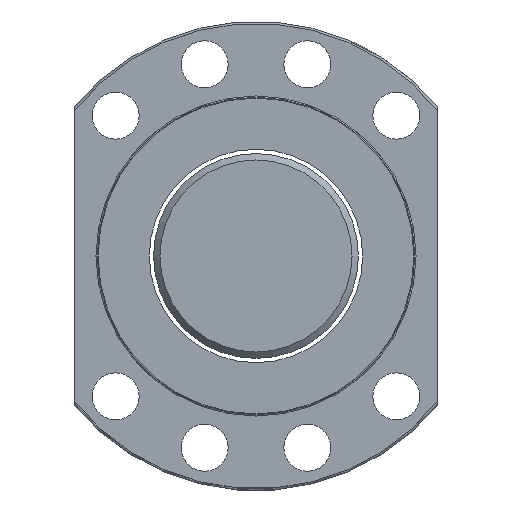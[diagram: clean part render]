
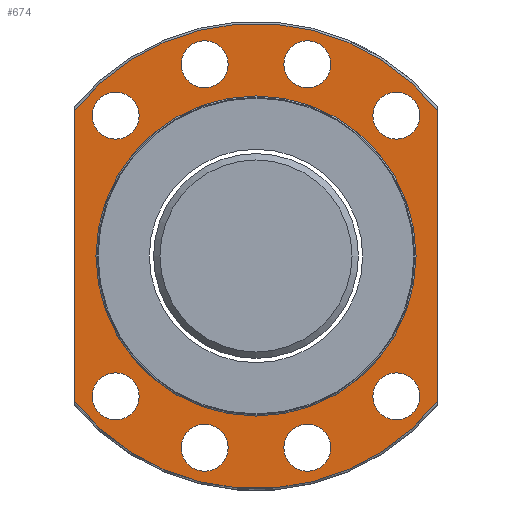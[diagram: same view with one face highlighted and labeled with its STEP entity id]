
A CAD part, left-side view. The second image highlights one B-rep face of the part: STEP entity #674.
In plain terms, the highlighted planar face has unit normal (-1, 0, 0).
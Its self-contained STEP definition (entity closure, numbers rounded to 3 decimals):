
#79=LINE('',#1088,#87);
#83=LINE('',#1125,#91);
#87=VECTOR('',#856,1000.);
#91=VECTOR('',#862,1000.);
#100=PLANE('',#781);
#208=ORIENTED_EDGE('',*,*,#330,.T.);
#209=ORIENTED_EDGE('',*,*,#294,.T.);
#210=ORIENTED_EDGE('',*,*,#331,.T.);
#211=ORIENTED_EDGE('',*,*,#303,.F.);
#212=ORIENTED_EDGE('',*,*,#305,.T.);
#213=ORIENTED_EDGE('',*,*,#307,.T.);
#214=ORIENTED_EDGE('',*,*,#309,.T.);
#215=ORIENTED_EDGE('',*,*,#311,.T.);
#216=ORIENTED_EDGE('',*,*,#313,.T.);
#217=ORIENTED_EDGE('',*,*,#315,.T.);
#218=ORIENTED_EDGE('',*,*,#317,.T.);
#219=ORIENTED_EDGE('',*,*,#319,.T.);
#220=ORIENTED_EDGE('',*,*,#324,.F.);
#294=EDGE_CURVE('',#370,#369,#79,.T.);
#303=EDGE_CURVE('',#376,#377,#83,.T.);
#305=EDGE_CURVE('',#378,#378,#422,.T.);
#307=EDGE_CURVE('',#380,#380,#424,.T.);
#309=EDGE_CURVE('',#382,#382,#426,.T.);
#311=EDGE_CURVE('',#384,#384,#428,.T.);
#313=EDGE_CURVE('',#386,#386,#430,.T.);
#315=EDGE_CURVE('',#388,#388,#432,.T.);
#317=EDGE_CURVE('',#390,#390,#434,.T.);
#319=EDGE_CURVE('',#392,#392,#436,.T.);
#324=EDGE_CURVE('',#397,#397,#441,.T.);
#330=EDGE_CURVE('',#376,#370,#447,.T.);
#331=EDGE_CURVE('',#369,#377,#448,.T.);
#369=VERTEX_POINT('',#1087);
#370=VERTEX_POINT('',#1089);
#376=VERTEX_POINT('',#1124);
#377=VERTEX_POINT('',#1126);
#378=VERTEX_POINT('',#1134);
#380=VERTEX_POINT('',#1139);
#382=VERTEX_POINT('',#1144);
#384=VERTEX_POINT('',#1149);
#386=VERTEX_POINT('',#1154);
#388=VERTEX_POINT('',#1159);
#390=VERTEX_POINT('',#1164);
#392=VERTEX_POINT('',#1169);
#397=VERTEX_POINT('',#1182);
#422=CIRCLE('',#741,5.5);
#424=CIRCLE('',#744,5.5);
#426=CIRCLE('',#747,5.5);
#428=CIRCLE('',#750,5.5);
#430=CIRCLE('',#753,5.5);
#432=CIRCLE('',#756,5.5);
#434=CIRCLE('',#759,5.5);
#436=CIRCLE('',#762,5.5);
#441=CIRCLE('',#770,37.5);
#447=CIRCLE('',#780,54.5);
#448=CIRCLE('',#782,54.5);
#510=EDGE_LOOP('',(#208,#209,#210,#211));
#511=EDGE_LOOP('',(#212));
#512=EDGE_LOOP('',(#213));
#513=EDGE_LOOP('',(#214));
#514=EDGE_LOOP('',(#215));
#515=EDGE_LOOP('',(#216));
#516=EDGE_LOOP('',(#217));
#517=EDGE_LOOP('',(#218));
#518=EDGE_LOOP('',(#219));
#519=EDGE_LOOP('',(#220));
#603=FACE_BOUND('',#510,.T.);
#604=FACE_BOUND('',#511,.T.);
#605=FACE_BOUND('',#512,.T.);
#606=FACE_BOUND('',#513,.T.);
#607=FACE_BOUND('',#514,.T.);
#608=FACE_BOUND('',#515,.T.);
#609=FACE_BOUND('',#516,.T.);
#610=FACE_BOUND('',#517,.T.);
#611=FACE_BOUND('',#518,.T.);
#612=FACE_BOUND('',#519,.T.);
#674=ADVANCED_FACE('',(#603,#604,#605,#606,#607,#608,#609,#610,#611,#612),
#100,.F.);
#741=AXIS2_PLACEMENT_3D('',#1133,#865,#866);
#744=AXIS2_PLACEMENT_3D('',#1138,#871,#872);
#747=AXIS2_PLACEMENT_3D('',#1143,#877,#878);
#750=AXIS2_PLACEMENT_3D('',#1148,#883,#884);
#753=AXIS2_PLACEMENT_3D('',#1153,#889,#890);
#756=AXIS2_PLACEMENT_3D('',#1158,#895,#896);
#759=AXIS2_PLACEMENT_3D('',#1163,#901,#902);
#762=AXIS2_PLACEMENT_3D('',#1168,#907,#908);
#770=AXIS2_PLACEMENT_3D('',#1181,#923,#924);
#780=AXIS2_PLACEMENT_3D('',#1193,#943,#944);
#781=AXIS2_PLACEMENT_3D('',#1194,#945,#946);
#782=AXIS2_PLACEMENT_3D('',#1195,#947,#948);
#856=DIRECTION('',(0.,0.,-1.));
#862=DIRECTION('',(0.,0.,-1.));
#865=DIRECTION('',(1.,0.,0.));
#866=DIRECTION('',(0.,1.,0.));
#871=DIRECTION('',(1.,0.,0.));
#872=DIRECTION('',(0.,1.,0.));
#877=DIRECTION('',(1.,0.,0.));
#878=DIRECTION('',(0.,1.,0.));
#883=DIRECTION('',(1.,0.,0.));
#884=DIRECTION('',(0.,1.,0.));
#889=DIRECTION('',(1.,0.,0.));
#890=DIRECTION('',(0.,1.,0.));
#895=DIRECTION('',(1.,0.,0.));
#896=DIRECTION('',(0.,1.,0.));
#901=DIRECTION('',(1.,0.,0.));
#902=DIRECTION('',(0.,1.,0.));
#907=DIRECTION('',(1.,0.,0.));
#908=DIRECTION('',(0.,1.,0.));
#923=DIRECTION('',(-1.,0.,0.));
#924=DIRECTION('',(0.,-1.,0.));
#943=DIRECTION('',(-1.,0.,0.));
#944=DIRECTION('',(0.,-1.,0.));
#945=DIRECTION('',(1.,0.,0.));
#946=DIRECTION('',(0.,1.,0.));
#947=DIRECTION('',(-1.,0.,0.));
#948=DIRECTION('',(0.,-1.,0.));
#1087=CARTESIAN_POINT('',(-38.001,42.5,-34.118));
#1088=CARTESIAN_POINT('',(-38.001,42.5,0.));
#1089=CARTESIAN_POINT('',(-38.001,42.5,34.118));
#1124=CARTESIAN_POINT('',(-38.001,-42.5,34.118));
#1125=CARTESIAN_POINT('',(-38.001,-42.5,0.));
#1126=CARTESIAN_POINT('',(-38.001,-42.5,-34.118));
#1133=CARTESIAN_POINT('',(-38.001,32.881,-32.881));
#1134=CARTESIAN_POINT('',(-38.001,38.381,-32.881));
#1138=CARTESIAN_POINT('',(-38.001,32.881,32.881));
#1139=CARTESIAN_POINT('',(-38.001,38.381,32.881));
#1143=CARTESIAN_POINT('',(-38.001,-32.88,-32.881));
#1144=CARTESIAN_POINT('',(-38.001,-27.38,-32.881));
#1148=CARTESIAN_POINT('',(-38.001,-32.88,32.881));
#1149=CARTESIAN_POINT('',(-38.001,-27.38,32.881));
#1153=CARTESIAN_POINT('',(-38.001,12.035,-44.916));
#1154=CARTESIAN_POINT('',(-38.001,17.535,-44.916));
#1158=CARTESIAN_POINT('',(-38.001,-12.035,-44.916));
#1159=CARTESIAN_POINT('',(-38.001,-6.535,-44.916));
#1163=CARTESIAN_POINT('',(-38.001,-12.035,44.916));
#1164=CARTESIAN_POINT('',(-38.001,-6.535,44.916));
#1168=CARTESIAN_POINT('',(-38.001,12.035,44.916));
#1169=CARTESIAN_POINT('',(-38.001,17.535,44.916));
#1181=CARTESIAN_POINT('',(-38.001,0.,0.));
#1182=CARTESIAN_POINT('',(-38.001,-37.5,0.));
#1193=CARTESIAN_POINT('',(-38.001,0.,0.));
#1194=CARTESIAN_POINT('',(-38.001,46.,0.));
#1195=CARTESIAN_POINT('',(-38.001,0.,0.));
